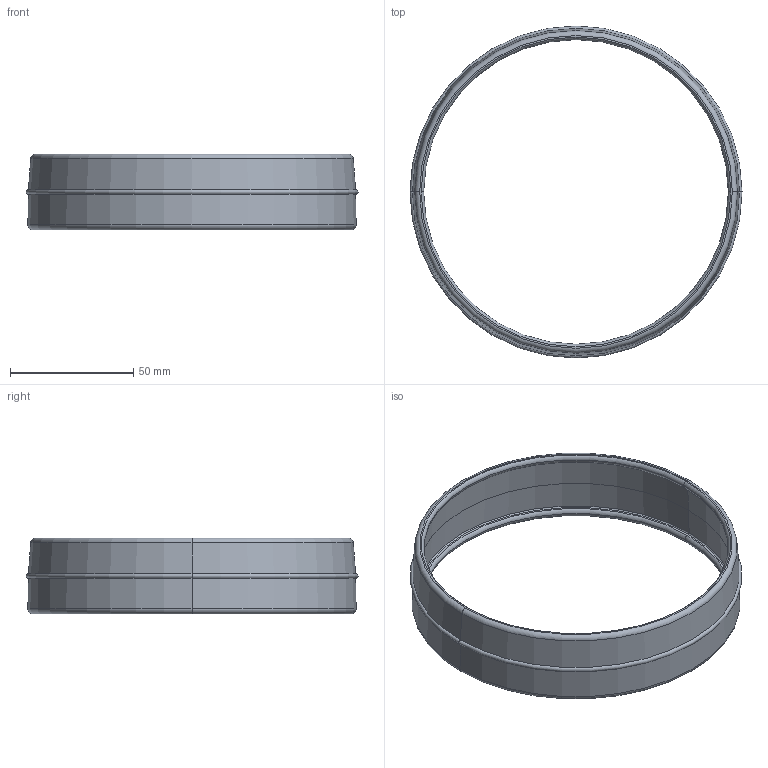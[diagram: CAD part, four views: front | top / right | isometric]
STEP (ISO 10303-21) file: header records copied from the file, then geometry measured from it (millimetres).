
FILE_DESCRIPTION (( 'STEP AP214' ), '1' );
FILE_NAME ('0438 Schutzring.STEP', '2025-03-26T12:56:04', ( '' ), ( '' ), 'SwSTEP 2.0', 'SolidWorks 2022', '' );
FILE_SCHEMA (( 'AUTOMOTIVE_DESIGN' ));
Length unit declared in the file: millimetre
Products named in the file (1): 0438 Schutzring
Bounding box: 134.5 x 134.5 x 30.75 mm (x, y, z)
Volume: 26214.8 mm3; surface area: 28626.5 mm2
Topology: 1 solids, 1 shells, 30 faces, 60 edges, 34 vertices
Faces by surface type: torus 18, cone 8, plane 4
Entity records: 1160 total; most frequent: DIRECTION 174, CARTESIAN_POINT 125, ORIENTED_EDGE 120, AXIS2_PLACEMENT_3D 83, EDGE_CURVE 60, CIRCLE 52, EDGE_LOOP 34, VERTEX_POINT 34
